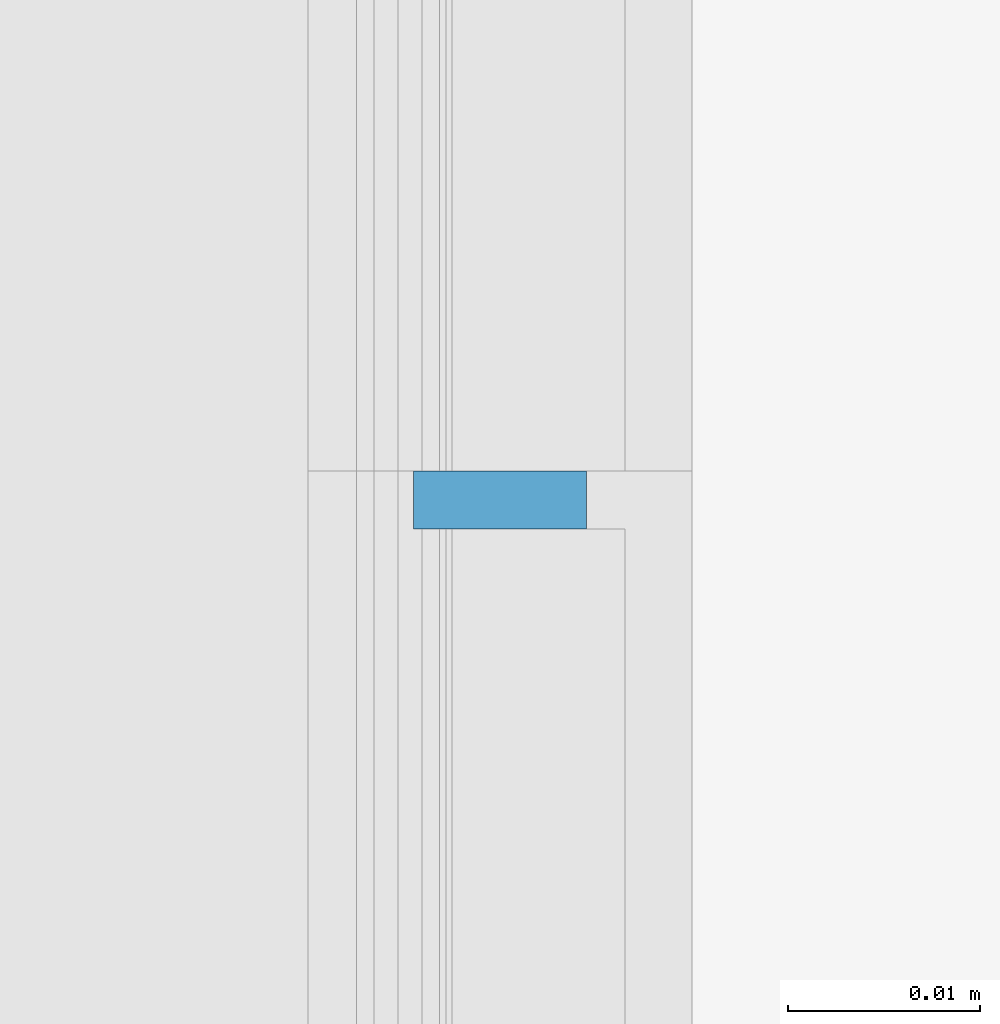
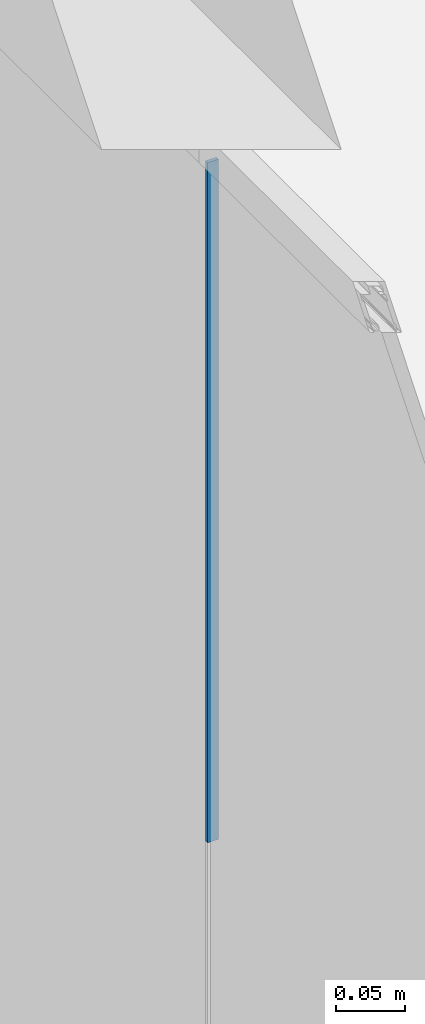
# One storey, part 15 of 387: 1 member, 1 element without a shape of its own.
"""IFC2X3 building model written with IfcOpenShell, lengths in millimetres."""

from ifc_helpers import new_model, entity, si_unit, converted_unit, derived_unit, money_unit, direction, frame, origin_with_axes, place, context, subcontext, project, spatial, polyline, outline, extrude, material, type_object, element, aggregate, save


model = new_model("IFC2X3")

# Units and contexts
model_context = context("Model", 3, precision=0.01, world=origin_with_axes(), true_north=direction((0.0, 1.0)))
body_context = subcontext(model_context, "Body", "Model", "MODEL_VIEW")
ifc_project = project(units=[si_unit("LENGTHUNIT", "METRE", prefix="MILLI"), si_unit("AREAUNIT", "SQUARE_METRE"), si_unit("VOLUMEUNIT", "CUBIC_METRE"), converted_unit("PLANEANGLEUNIT", "DEGREE", entity("IfcPlaneAngleMeasure", 0.0174532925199), si_unit("PLANEANGLEUNIT", "RADIAN"), dimensions=[0, 0, 0, 0, 0, 0, 0]), si_unit("SOLIDANGLEUNIT", "STERADIAN"), money_unit("EUR"), converted_unit("TIMEUNIT", "Year", entity("IfcTimeMeasure", 31556926.0), si_unit("TIMEUNIT", "SECOND"), dimensions=[0, 0, 1, 0, 0, 0, 0]), si_unit("MASSUNIT", "GRAM", prefix="KILO"), si_unit("THERMODYNAMICTEMPERATUREUNIT", "DEGREE_CELSIUS"), si_unit("LUMINOUSINTENSITYUNIT", "LUMEN"), si_unit("ENERGYUNIT", "JOULE", prefix="MEGA"), derived_unit("THERMALCONDUCTANCEUNIT", [(si_unit("POWERUNIT", "WATT"), 1), (si_unit("LENGTHUNIT", "METRE"), -1), (si_unit("THERMODYNAMICTEMPERATUREUNIT", "KELVIN"), -1)]), derived_unit("SPECIFICHEATCAPACITYUNIT", [(si_unit("ENERGYUNIT", "JOULE"), 1), (si_unit("MASSUNIT", "GRAM", prefix="KILO"), -1), (si_unit("THERMODYNAMICTEMPERATUREUNIT", "KELVIN"), -1)]), derived_unit("MASSDENSITYUNIT", [(si_unit("MASSUNIT", "GRAM", prefix="KILO"), 1), (si_unit("VOLUMEUNIT", "CUBIC_METRE"), -1)])], contexts=[model_context])

# Site, building, storey
site_placement = place(None, origin_with_axes())
site = spatial("IfcSite", under=ifc_project, at=site_placement, Name="Puškini 31, Narva", CompositionType="ELEMENT")
building_placement = place(site_placement, origin_with_axes())
building = spatial("IfcBuilding", under=site, at=building_placement, Name="Narva Riigigümnaasium", CompositionType="ELEMENT")
storey_placement = place(building_placement, frame((0.0, 0.0, 2640.0), z_axis=(0.0, 0.0, 1.0), x_axis=(1.0, 0.0, 0.0)))
storey = spatial("IfcBuildingStorey", under=building, at=storey_placement, Name="2.korrus +2.64", CompositionType="ELEMENT", Elevation=2640.0)

# Curtain wall, member
curtain_wall_type = type_object("IfcCurtainWallType", Name="Curtain Wall Type", PredefinedType="NOTDEFINED")
curtain_wall_placement = place(storey_placement, frame((28389.9972784, 173774.499972, -5.2224053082e-05), z_axis=(0.0, 0.0, 1.0), x_axis=(1.0, 0.0, 0.0)))
curtain_wall = element("IfcCurtainWall", 1, at=curtain_wall_placement, inside=storey, type_object=curtain_wall_type, Name="G-SKLF-15.2")
ifc_material = material(Name="VMR-03_Membraan - Veekindel")
member_type = type_object("IfcMemberType", Name="3 x 5", PredefinedType="MULLION")
member_placement = place(curtain_wall_placement, frame((1.76108017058e-08, 660.50001258, 2400.00005222), z_axis=(0.0, 0.0, 1.0), x_axis=(0.0, -1.0, 0.0)))
member = element("IfcMember", 2, at=member_placement, type_object=member_type, material=ifc_material, Name="Frame-Siseklaasf-078", ObjectType="MULLION", context=body_context, shape_type="SweptSolid", body=[
    extrude(outline(polyline([(4.5, -1.13686837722e-10), (-4.5, 0.0), (-4.50000000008, -2.9999999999), (4.49999999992, -3.00000000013), (4.5, -1.13686837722e-10)])), frame((0.0, 0.0, 0.0), z_axis=(0.0, 0.0, 1.0), x_axis=(0.0, 1.0, 0.0)), (0.0, 0.0, 1.0), 599.999952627),
])
aggregate(curtain_wall, [member])

save(model, "model.ifc")
